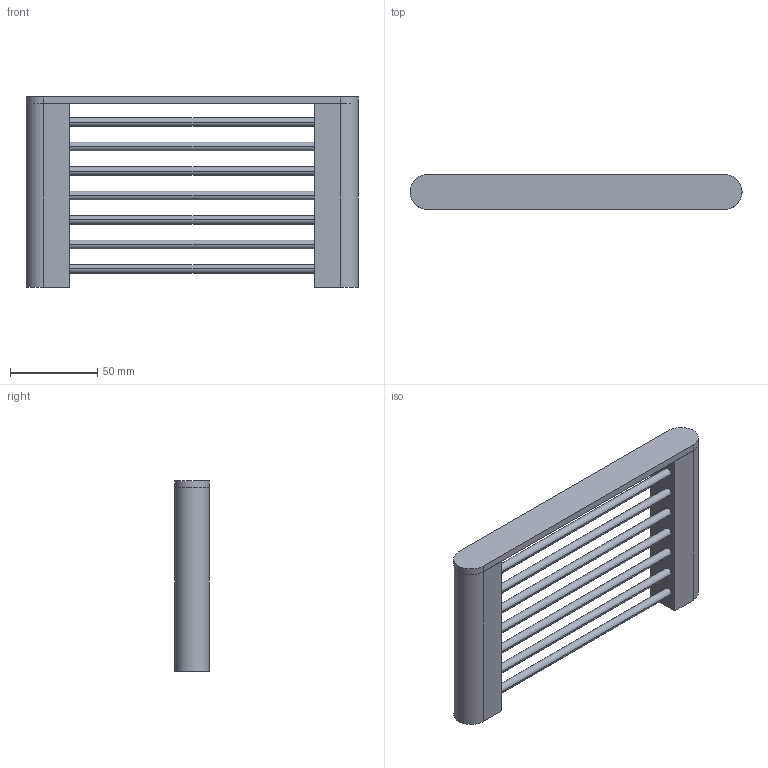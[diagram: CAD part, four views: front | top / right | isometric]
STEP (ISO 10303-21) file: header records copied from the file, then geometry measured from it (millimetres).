
FILE_DESCRIPTION(('FreeCAD Model'),'2;1');
FILE_NAME('Open CASCADE Shape Model','2024-08-10T18:41:21',('Author'),( ''),'Open CASCADE STEP processor 7.6','FreeCAD','Unknown');
FILE_SCHEMA(('AUTOMOTIVE_DESIGN { 1 0 10303 214 1 1 1 1 }'));
Length unit declared in the file: millimetre
Products named in the file (13): TopLevelAssembly; Wyciąganie001; Wyciąganie004; Wyciąganie002; Wyciąganie003; Wyciąganie012; Wyciąganie005; Wyciąganie006; Wyciąganie007; Wyciąganie008; Wyciąganie009; Wyciąganie010; Wyciąganie011
Assembly tree (12 placements, depth 3):
  TopLevelAssembly
    Wyciąganie001
    Wyciąganie004
      Wyciąganie002
      Wyciąganie003
    Wyciąganie012
      Wyciąganie005
      Wyciąganie006
      Wyciąganie007
      Wyciąganie008
      Wyciąganie009
      Wyciąganie010
      Wyciąganie011
Bounding box: 190 x 20 x 109 mm (x, y, z)
Volume: 130085.6 mm3; surface area: 43634 mm2
Topology: 10 solids, 10 shells, 46 faces, 78 edges, 52 vertices
Faces by surface type: plane 28, cylinder 18
Entity records: 1408 total; most frequent: DIRECTION 232, CARTESIAN_POINT 189, ORIENTED_EDGE 156, AXIS2_PLACEMENT_3D 95, EDGE_CURVE 78, VERTEX_POINT 52, ADVANCED_FACE 46, FACE_BOUND 46
